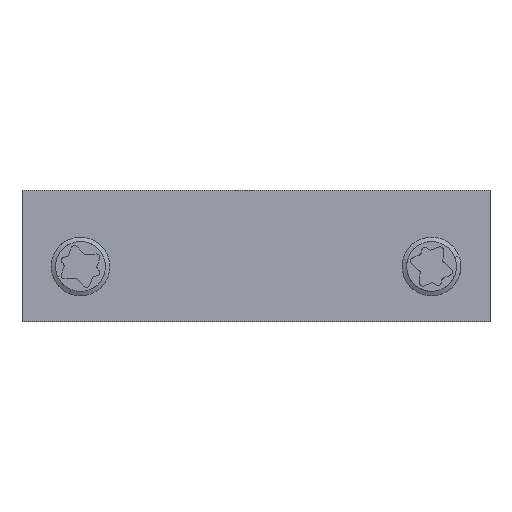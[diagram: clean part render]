
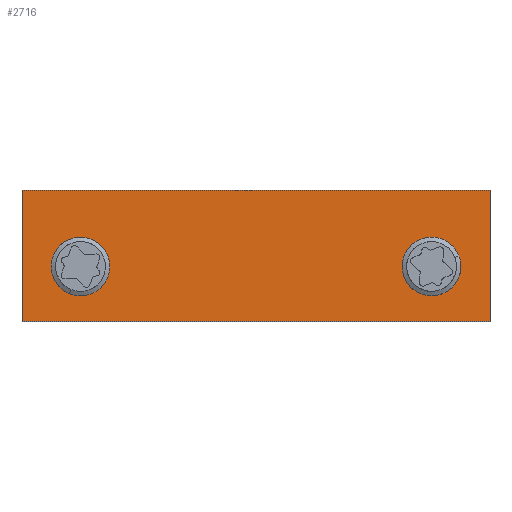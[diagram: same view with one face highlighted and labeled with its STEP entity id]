
A CAD part, top view. The second image highlights one B-rep face of the part: STEP entity #2716.
In plain terms, the highlighted planar face has unit normal (0, 0, 1).
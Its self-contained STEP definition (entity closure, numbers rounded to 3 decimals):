
#83 = CARTESIAN_POINT ( 'NONE',  ( -13., -0.9, 1. ) ) ;
#104 = LINE ( 'NONE', #796, #2839 ) ;
#117 = VECTOR ( 'NONE', #2461, 1000. ) ;
#199 = EDGE_CURVE ( 'NONE', #841, #3214, #4185, .T. ) ;
#342 = PLANE ( 'NONE',  #448 ) ;
#448 = AXIS2_PLACEMENT_3D ( 'NONE', #1370, #999, #3709 ) ;
#547 = VERTEX_POINT ( 'NONE', #4216 ) ;
#554 = ORIENTED_EDGE ( 'NONE', *, *, #3648, .T. ) ;
#609 = ORIENTED_EDGE ( 'NONE', *, *, #3759, .T. ) ;
#638 = EDGE_LOOP ( 'NONE', ( #922, #3261 ) ) ;
#796 = CARTESIAN_POINT ( 'NONE',  ( -20., 5.6, 1. ) ) ;
#818 = DIRECTION ( 'NONE',  ( 0., 0., 1. ) ) ;
#841 = VERTEX_POINT ( 'NONE', #83 ) ;
#911 = DIRECTION ( 'NONE',  ( 0., -1., 0. ) ) ;
#922 = ORIENTED_EDGE ( 'NONE', *, *, #3339, .F. ) ;
#977 = LINE ( 'NONE', #2343, #2418 ) ;
#999 = DIRECTION ( 'NONE',  ( 0., 0., 1. ) ) ;
#1056 = CIRCLE ( 'NONE', #1200, 2. ) ;
#1070 = EDGE_CURVE ( 'NONE', #3214, #841, #1056, .T. ) ;
#1131 = DIRECTION ( 'NONE',  ( -1., 0., 0. ) ) ;
#1200 = AXIS2_PLACEMENT_3D ( 'NONE', #2530, #818, #3948 ) ;
#1255 = AXIS2_PLACEMENT_3D ( 'NONE', #2835, #1760, #1131 ) ;
#1370 = CARTESIAN_POINT ( 'NONE',  ( 0., 0., 1. ) ) ;
#1493 = EDGE_CURVE ( 'NONE', #2643, #1571, #977, .T. ) ;
#1571 = VERTEX_POINT ( 'NONE', #3270 ) ;
#1703 = CARTESIAN_POINT ( 'NONE',  ( 17., -0.9, 1. ) ) ;
#1760 = DIRECTION ( 'NONE',  ( 0., 0., 1. ) ) ;
#1811 = LINE ( 'NONE', #2818, #117 ) ;
#1989 = DIRECTION ( 'NONE',  ( 0., 0., 1. ) ) ;
#2010 = FACE_BOUND ( 'NONE', #638, .T. ) ;
#2189 = DIRECTION ( 'NONE',  ( 1., 0., 0. ) ) ;
#2191 = AXIS2_PLACEMENT_3D ( 'NONE', #3662, #3622, #3315 ) ;
#2337 = CARTESIAN_POINT ( 'NONE',  ( -20., 5.6, 1. ) ) ;
#2343 = CARTESIAN_POINT ( 'NONE',  ( -20., 5.6, 1. ) ) ;
#2370 = ORIENTED_EDGE ( 'NONE', *, *, #1493, .T. ) ;
#2374 = VERTEX_POINT ( 'NONE', #2879 ) ;
#2418 = VECTOR ( 'NONE', #911, 1000. ) ;
#2461 = DIRECTION ( 'NONE',  ( 1., 0., 0. ) ) ;
#2490 = ORIENTED_EDGE ( 'NONE', *, *, #199, .F. ) ;
#2502 = CARTESIAN_POINT ( 'NONE',  ( -17., -0.9, 1. ) ) ;
#2530 = CARTESIAN_POINT ( 'NONE',  ( -15., -0.9, 1. ) ) ;
#2643 = VERTEX_POINT ( 'NONE', #2337 ) ;
#2716 = ADVANCED_FACE ( 'NONE', ( #3397, #2010, #3416 ), #342, .T. ) ;
#2730 = EDGE_LOOP ( 'NONE', ( #554, #3471, #2370, #609 ) ) ;
#2761 = VECTOR ( 'NONE', #4422, 1000. ) ;
#2787 = CARTESIAN_POINT ( 'NONE',  ( 20., 5.6, 1. ) ) ;
#2818 = CARTESIAN_POINT ( 'NONE',  ( -20., -5.6, 1. ) ) ;
#2835 = CARTESIAN_POINT ( 'NONE',  ( 15., -0.9, 1. ) ) ;
#2839 = VECTOR ( 'NONE', #3555, 1000. ) ;
#2879 = CARTESIAN_POINT ( 'NONE',  ( 13., -0.9, 1. ) ) ;
#2893 = EDGE_LOOP ( 'NONE', ( #2490, #3692 ) ) ;
#3206 = CIRCLE ( 'NONE', #2191, 2. ) ;
#3214 = VERTEX_POINT ( 'NONE', #2502 ) ;
#3261 = ORIENTED_EDGE ( 'NONE', *, *, #3567, .F. ) ;
#3270 = CARTESIAN_POINT ( 'NONE',  ( -20., -5.6, 1. ) ) ;
#3315 = DIRECTION ( 'NONE',  ( -1., 0., 0. ) ) ;
#3339 = EDGE_CURVE ( 'NONE', #4223, #2374, #3990, .T. ) ;
#3360 = VERTEX_POINT ( 'NONE', #2787 ) ;
#3375 = CARTESIAN_POINT ( 'NONE',  ( 20., 5.6, 1. ) ) ;
#3396 = LINE ( 'NONE', #3375, #2761 ) ;
#3397 = FACE_BOUND ( 'NONE', #2893, .T. ) ;
#3416 = FACE_OUTER_BOUND ( 'NONE', #2730, .T. ) ;
#3471 = ORIENTED_EDGE ( 'NONE', *, *, #4033, .T. ) ;
#3555 = DIRECTION ( 'NONE',  ( -1., 0., 0. ) ) ;
#3567 = EDGE_CURVE ( 'NONE', #2374, #4223, #3206, .T. ) ;
#3621 = AXIS2_PLACEMENT_3D ( 'NONE', #3685, #1989, #2189 ) ;
#3622 = DIRECTION ( 'NONE',  ( 0., 0., 1. ) ) ;
#3648 = EDGE_CURVE ( 'NONE', #547, #3360, #3396, .T. ) ;
#3662 = CARTESIAN_POINT ( 'NONE',  ( 15., -0.9, 1. ) ) ;
#3685 = CARTESIAN_POINT ( 'NONE',  ( -15., -0.9, 1. ) ) ;
#3692 = ORIENTED_EDGE ( 'NONE', *, *, #1070, .F. ) ;
#3709 = DIRECTION ( 'NONE',  ( 1., 0., 0. ) ) ;
#3759 = EDGE_CURVE ( 'NONE', #1571, #547, #1811, .T. ) ;
#3948 = DIRECTION ( 'NONE',  ( 1., 0., 0. ) ) ;
#3990 = CIRCLE ( 'NONE', #1255, 2. ) ;
#4033 = EDGE_CURVE ( 'NONE', #3360, #2643, #104, .T. ) ;
#4185 = CIRCLE ( 'NONE', #3621, 2. ) ;
#4216 = CARTESIAN_POINT ( 'NONE',  ( 20., -5.6, 1. ) ) ;
#4223 = VERTEX_POINT ( 'NONE', #1703 ) ;
#4422 = DIRECTION ( 'NONE',  ( 0., 1., 0. ) ) ;
